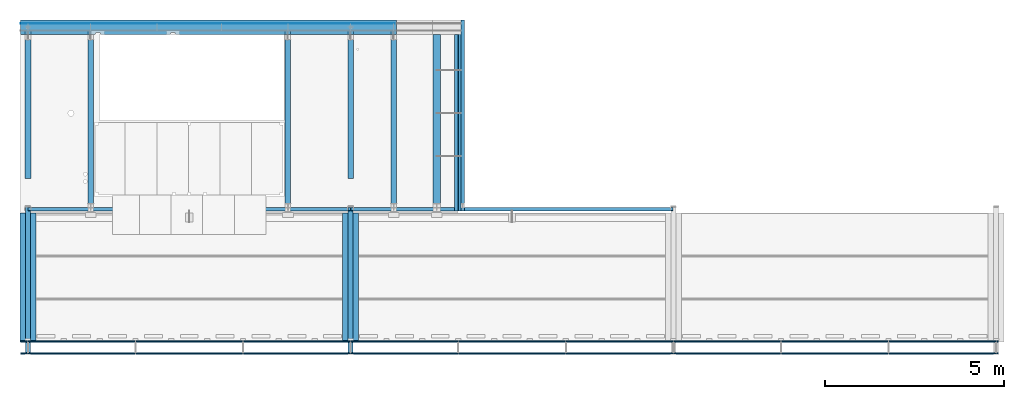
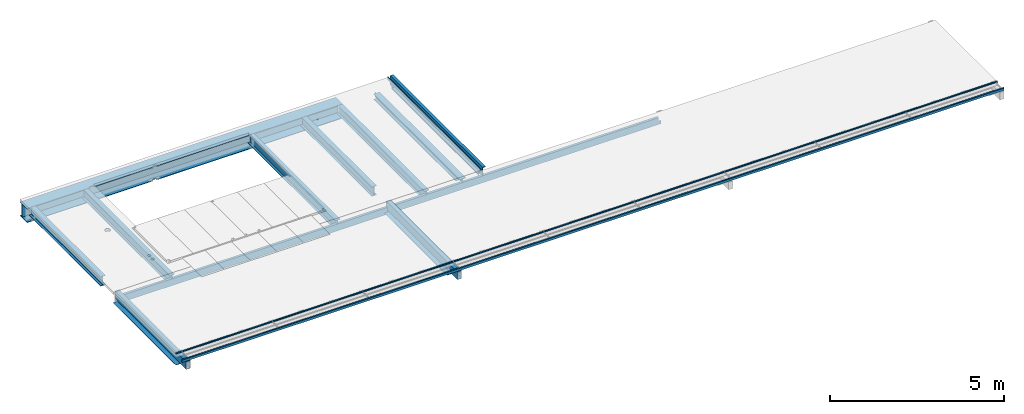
# One storey, part 1 of 13: 19 beams.
"""IFC2X3 building model written with IfcOpenShell, lengths in millimetres."""

from ifc_helpers import new_model, entity, si_unit, converted_unit, derived_unit, direction, frame, origin_with_axes, place, context, subcontext, project, spatial, faceted_brep, material, type_object, element, save


model = new_model("IFC2X3")

# Units and contexts
model_context = context("Model", 3, precision=0.01, world=frame((0.0, 4.29681676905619e-09, 0.0)), true_north=direction((4.01073788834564e-13, 1.0)))
plan_context = context("Plan", 3, precision=0.01, world=frame((0.0, 4.29681676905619e-09, 0.0)), true_north=direction((4.01073788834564e-13, 1.0)))
body_context = subcontext(model_context, "Body", "Model", "MODEL_VIEW")
ifc_project = project(units=[converted_unit("PLANEANGLEUNIT", "DEGREE", entity("IfcPositiveLengthMeasure", 0.0174532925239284), si_unit("PLANEANGLEUNIT", "RADIAN"), dimensions=[0, 0, 0, 0, 0, 0, 0]), si_unit("AREAUNIT", "SQUARE_METRE"), si_unit("LENGTHUNIT", "METRE", prefix="MILLI"), si_unit("MASSUNIT", "GRAM", prefix="KILO"), si_unit("POWERUNIT", "WATT"), si_unit("PRESSUREUNIT", "PASCAL", prefix="KILO"), si_unit("FORCEUNIT", "NEWTON", prefix="KILO"), si_unit("ELECTRICVOLTAGEUNIT", "VOLT"), si_unit("ELECTRICCURRENTUNIT", "AMPERE"), si_unit("THERMODYNAMICTEMPERATUREUNIT", "DEGREE_CELSIUS"), si_unit("TIMEUNIT", "SECOND"), si_unit("VOLUMEUNIT", "CUBIC_METRE"), derived_unit("LINEARVELOCITYUNIT", [(si_unit("LENGTHUNIT", "METRE"), 1), (si_unit("TIMEUNIT", "SECOND"), -1)]), derived_unit("VOLUMETRICFLOWRATEUNIT", [(si_unit("VOLUMEUNIT", "CUBIC_METRE"), 1), (si_unit("TIMEUNIT", "SECOND"), -1)]), derived_unit("THERMALTRANSMITTANCEUNIT", [(si_unit("POWERUNIT", "WATT"), 1), (si_unit("THERMODYNAMICTEMPERATUREUNIT", "KELVIN"), -1), (si_unit("AREAUNIT", "SQUARE_METRE"), -1)]), derived_unit("SOUNDPRESSUREUNIT", [(si_unit("PRESSUREUNIT", "PASCAL"), 1)])], contexts=[model_context, plan_context])

# Site, building, storey
site_placement = place(None, frame((0.0, -4.29681676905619e-09, 0.0), z_axis=(0.0, 0.0, 1.0), x_axis=(1.0, 0.0, 0.0)))
site = spatial("IfcSite", under=ifc_project, at=site_placement, Name="Gardermoen", CompositionType="ELEMENT")
building_placement = place(site_placement, frame((0.0, 4.29681676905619e-09, 0.0), z_axis=(0.0, 0.0, 1.0), x_axis=(1.0, 0.0, 0.0)))
building = spatial("IfcBuilding", under=site, at=building_placement, Name="TG", CompositionType="ELEMENT")
storey_placement = place(building_placement, origin_with_axes())
storey = spatial("IfcBuildingStorey", under=building, at=storey_placement, Name="G", CompositionType="ELEMENT", Elevation=0.0)

# Beams
ifc_material = material(Name="STEEL/S355")
beam_type_1 = type_object("IfcBeamType", Name="UNP240", PredefinedType="NOTDEFINED")
for number, where, z_axis, x_axis in (
    (1, (331010.0, 462222.495625, 213280.0), (0.0, 0.0, -1.0), (1.0, 0.0, 0.0)),
    (2, (322010.0, 462222.495625, 213280.0), (0.0, 0.0, -1.0), (1.0, 0.0, 0.0)),
):
    element("IfcBeam", number, at=place(storey_placement, frame(where, z_axis=z_axis, x_axis=x_axis)), inside=storey, type_object=beam_type_1, material=ifc_material, Name="STÅLBJELKE", ObjectType="UNP240", context=body_context, shape_type="Brep", body=[
        faceted_brep([(70.0, 33.0, -3.0), (70.0, 42.5, -3.0), (70.0, 42.5, -120.0), (70.0, -42.5, -120.0), (70.0, -42.5, -110.399999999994), (70.0, 33.0, -104.359999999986), (0.0, 33.0, -3.0), (0.0, 42.5, -3.0), (0.0, 42.5, 120.0), (0.0, -42.5, 120.0), (8980.0, -42.5, 120.0), (8980.0, 42.5, 120.0), (0.0, -42.5, 110.399999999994), (8980.0, -42.5, 110.399999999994), (0.0, 33.0, 104.359999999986), (8980.0, 33.0, 104.359999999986), (8980.0, 33.0, -3.0), (8980.0, 42.5, -3.0), (8910.0, 33.0, -3.0), (8910.0, 42.5, -3.0), (8910.0, 33.0, -104.359999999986), (8910.0, -42.5, -110.399999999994), (8910.0, -42.5, -120.0), (8910.0, 42.5, -120.0)], [[[0, 1, 2, 3, 4, 5]], [[6, 7, 1, 0]], [[8, 9, 10, 11]], [[9, 12, 13, 10]], [[12, 14, 15, 13]], [[11, 10, 13, 15, 16, 17]], [[16, 18, 19, 17]], [[20, 21, 22, 23, 19, 18]], [[21, 20, 5, 4]], [[22, 21, 4, 3]], [[23, 22, 3, 2]], [[8, 11, 17, 19, 23, 2, 1, 7]], [[14, 12, 9, 8, 7, 6]], [[20, 18, 16, 15, 14, 6, 0, 5]]]),
    ])
beam_type_2 = type_object("IfcBeamType", Name="L120*80*8", PredefinedType="NOTDEFINED")
beam_1_placement = place(storey_placement, frame((334034.999765, 462179.995625, 213640.0), z_axis=(0.0, 0.0, 1.0), x_axis=(0.0, 1.0, 0.0)))
element("IfcBeam", 3, at=beam_1_placement, inside=storey, type_object=beam_type_2, Name="STÅLBJELKE", ObjectType="L120*80*8", context=body_context, shape_type="Brep", body=[
    faceted_brep([(5320.00437499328, 40.0, -60.0), (5320.00437499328, 40.0, 60.0), (0.0, 40.0, 60.0), (0.0, 40.0, -60.0), (5320.00437499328, 32.0, 60.0), (0.0, 32.0, 60.0), (5320.00437499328, 32.0, -52.0), (0.0, 32.0, -52.0), (5320.00437499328, -40.0, -52.0), (0.0, -40.0, -52.0), (5320.00437499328, -40.0, -60.0), (0.0, -40.0, -60.0)], [[[0, 1, 2, 3]], [[1, 4, 5, 2]], [[4, 6, 7, 5]], [[6, 8, 9, 7]], [[8, 10, 11, 9]], [[10, 0, 3, 11]], [[3, 2, 5, 7, 9, 11]], [[10, 8, 6, 4, 1, 0]]], orient=[[False], [False], [False], [False], [False], [False], [False], [False]]),
])
beam_type_3 = type_object("IfcBeamType", Name="T100", PredefinedType="NOTDEFINED")
beam_2_placement = place(storey_placement, frame((333944.999765, 467195.004375, 213520.0), z_axis=(0.0, 0.0, 1.0), x_axis=(0.0, -1.0, 0.0)))
element("IfcBeam", 4, at=beam_2_placement, inside=storey, type_object=beam_type_3, material=ifc_material, Name="STÅLBJELKE", ObjectType="T100", context=body_context, shape_type="Brep", body=[
    faceted_brep([(95.0, -5.5, 30.0), (95.0, 5.5, 30.0), (0.0, 5.5, 30.0), (0.0, -5.5, 30.0), (95.0, -50.0, 50.0), (95.0, 50.0, 50.0), (95.0, 50.0, 39.0), (95.0, 5.5, 39.0), (95.0, -5.5, 39.0), (95.0, -50.0, 39.0), (0.0, -5.5, -50.0), (0.0, 5.5, -50.0), (5015.01753900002, 5.5, -50.0), (5015.01753900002, -5.5, -50.0), (5015.01753900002, 50.0, 39.0), (5015.01753900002, 50.0, 50.0), (5015.01753900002, -50.0, 50.0), (5015.01753900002, -50.0, 39.0), (5015.01753900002, -5.5, 39.0), (5015.01753900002, 5.5, 39.0)], [[[0, 1, 2, 3]], [[4, 5, 6, 7, 1, 0, 8, 9]], [[10, 11, 12, 13]], [[14, 15, 16, 17, 18, 13, 12, 19]], [[17, 16, 4, 9]], [[18, 17, 9, 8]], [[3, 10, 13, 18, 8, 0]], [[11, 10, 3, 2]], [[19, 12, 11, 2, 1, 7]], [[14, 19, 7, 6]], [[15, 14, 6, 5]], [[16, 15, 5, 4]]]),
])
beam_type_4 = type_object("IfcBeamType", Name="PL400*20", PredefinedType="NOTDEFINED")
beam_3_placement = place(storey_placement, frame((320720.000703, 467300.004375, 213080.0), z_axis=(0.0, -1.0, 0.0), x_axis=(1.0, 0.0, 0.0)))
element("IfcBeam", 5, at=beam_3_placement, inside=storey, type_object=beam_type_4, Name="STÅLBJELKE", ObjectType="PL400*20", context=body_context, shape_type="Brep", body=[
    faceted_brep([(5241.99906521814, -10.0, 199.999994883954), (5241.99906521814, 10.0, 200.0), (5266.76842347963, 10.0, 157.427661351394), (5266.76842347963, -10.0, 157.427661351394), (5269.27088199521, 10.0, 153.876997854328), (5269.27088199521, -10.0, 153.876997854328), (5272.35018144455, 10.0, 150.813107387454), (5272.35018144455, -10.0, 150.813107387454), (5275.91335403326, 10.0, 148.328492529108), (5275.91335403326, -10.0, 148.328492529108), (5279.85282324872, 10.0, 146.498166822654), (5279.85282324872, -10.0, 146.498166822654), (5284.04965172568, 10.0, 145.377390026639), (5284.04965172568, -10.0, 145.377390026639), (5288.37713210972, 10.0, 144.999999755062), (5288.37713210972, -10.0, 144.999999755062), (5359.62099536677, 10.0, 144.999998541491), (5359.62099536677, -10.0, 144.999998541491), (5363.94847546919, 10.0, 145.377388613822), (5363.94847546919, -10.0, 145.377388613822), (5368.14530371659, 10.0, 146.498165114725), (5368.14530371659, -10.0, 146.498165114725), (5372.08477277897, 10.0, 148.328490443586), (5372.08477277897, -10.0, 148.328490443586), (5375.64794531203, 10.0, 150.813104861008), (5375.64794531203, -10.0, 150.813104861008), (5378.72724481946, 10.0, 153.876994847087), (5378.72724481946, -10.0, 153.876994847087), (5381.22970351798, 10.0, 157.427657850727), (5381.22970351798, -10.0, 157.427657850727), (5405.99906559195, 10.0, 200.0), (5405.99906559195, -10.0, 199.999993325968), (3293.22970351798, -10.0, 157.427657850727), (3293.22970351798, 10.0, 157.427657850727), (3317.99906559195, 10.0, 200.0), (3317.99906559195, -10.0, 199.999993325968), (3290.72724481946, -10.0, 153.876994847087), (3290.72724481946, 10.0, 153.876994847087), (3287.64794531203, -10.0, 150.813104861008), (3287.64794531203, 10.0, 150.813104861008), (3284.08477277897, -10.0, 148.328490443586), (3284.08477277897, 10.0, 148.328490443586), (3280.14530371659, -10.0, 146.498165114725), (3280.14530371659, 10.0, 146.498165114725), (3275.94847546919, -10.0, 145.377388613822), (3275.94847546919, 10.0, 145.377388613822), (3271.62099536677, -10.0, 144.999998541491), (3271.62099536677, 10.0, 144.999998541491), (3200.37713210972, -10.0, 144.999999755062), (3200.37713210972, 10.0, 144.999999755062), (3196.04965172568, -10.0, 145.377390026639), (3196.04965172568, 10.0, 145.377390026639), (3191.85282324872, -10.0, 146.498166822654), (3191.85282324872, 10.0, 146.498166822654), (3187.91335403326, -10.0, 148.328492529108), (3187.91335403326, 10.0, 148.328492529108), (3184.35018144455, -10.0, 150.813107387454), (3184.35018144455, 10.0, 150.813107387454), (3181.27088199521, -10.0, 153.876997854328), (3181.27088199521, 10.0, 153.876997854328), (3178.76842347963, -10.0, 157.427661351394), (3178.76842347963, 10.0, 157.427661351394), (3153.99906521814, -10.0, 200.0), (3153.99906521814, 10.0, 200.0), (1074.74929700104, -10.0, 200.0), (1074.74929700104, 10.0, 200.0), (1074.74929700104, 10.0, -200.0), (1074.74929700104, -10.0, -200.0), (11559.9990620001, -10.0, -200.0), (11559.9990620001, 10.0, -200.0), (11559.9990620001, 10.0, 200.0), (11559.9990620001, -10.0, 200.0)], [[[0, 1, 2, 3]], [[3, 2, 4, 5]], [[5, 4, 6, 7]], [[7, 6, 8, 9]], [[9, 8, 10, 11]], [[11, 10, 12, 13]], [[13, 12, 14, 15]], [[15, 14, 16, 17]], [[17, 16, 18, 19]], [[19, 18, 20, 21]], [[21, 20, 22, 23]], [[23, 22, 24, 25]], [[25, 24, 26, 27]], [[27, 26, 28, 29]], [[29, 28, 30, 31]], [[32, 33, 34, 35]], [[36, 37, 33, 32]], [[38, 39, 37, 36]], [[40, 41, 39, 38]], [[42, 43, 41, 40]], [[44, 45, 43, 42]], [[46, 47, 45, 44]], [[48, 49, 47, 46]], [[50, 51, 49, 48]], [[52, 53, 51, 50]], [[54, 55, 53, 52]], [[56, 57, 55, 54]], [[58, 59, 57, 56]], [[60, 61, 59, 58]], [[62, 63, 61, 60]], [[64, 65, 63, 62]], [[66, 67, 68, 69]], [[70, 69, 68, 71]], [[67, 64, 62, 60, 58, 56, 54, 52, 50, 48, 46, 44, 42, 40, 38, 36, 32, 35, 0, 3, 5, 7, 9, 11, 13, 15, 17, 19, 21, 23, 25, 27, 29, 31, 71, 68]], [[1, 0, 35, 34]], [[65, 66, 69, 70, 30, 28, 26, 24, 22, 20, 18, 16, 14, 12, 10, 8, 6, 4, 2, 1, 34, 33, 37, 39, 41, 43, 45, 47, 49, 51, 53, 55, 57, 59, 61, 63]], [[31, 30, 70, 71]], [[67, 66, 65, 64]]], orient=[[False], [False], [False], [False], [False], [False], [False], [False], [False], [False], [False], [False], [False], [False], [False], [False], [False], [False], [False], [False], [False], [False], [False], [False], [False], [False], [False], [False], [False], [False], [False], [False], [False], [False], [False], [False], [False], [False]]),
])
beam_4_placement = place(storey_placement, frame((320720.000703, 467300.004375, 213560.0), z_axis=(0.0, -1.0, 0.0), x_axis=(1.0, 0.0, 0.0)))
element("IfcBeam", 6, at=beam_4_placement, inside=storey, type_object=beam_type_4, Name="STÅLBJELKE", ObjectType="PL400*20", context=body_context, shape_type="Brep", body=[
    faceted_brep([(5241.99906521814, -10.0, 199.999994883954), (5241.99906521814, 10.0, 200.0), (5266.76842347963, 10.0, 157.427661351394), (5266.76842347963, -10.0, 157.427661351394), (5269.27088199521, 10.0, 153.876997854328), (5269.27088199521, -10.0, 153.876997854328), (5272.35018144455, 10.0, 150.813107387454), (5272.35018144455, -10.0, 150.813107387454), (5275.91335403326, 10.0, 148.328492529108), (5275.91335403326, -10.0, 148.328492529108), (5279.85282324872, 10.0, 146.498166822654), (5279.85282324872, -10.0, 146.498166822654), (5284.04965172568, 10.0, 145.377390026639), (5284.04965172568, -10.0, 145.377390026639), (5288.37713210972, 10.0, 144.999999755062), (5288.37713210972, -10.0, 144.999999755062), (5359.62099536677, 10.0, 144.999998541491), (5359.62099536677, -10.0, 144.999998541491), (5363.94847546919, 10.0, 145.377388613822), (5363.94847546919, -10.0, 145.377388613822), (5368.14530371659, 10.0, 146.498165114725), (5368.14530371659, -10.0, 146.498165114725), (5372.08477277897, 10.0, 148.328490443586), (5372.08477277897, -10.0, 148.328490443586), (5375.64794531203, 10.0, 150.813104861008), (5375.64794531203, -10.0, 150.813104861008), (5378.72724481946, 10.0, 153.876994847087), (5378.72724481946, -10.0, 153.876994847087), (5381.22970351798, 10.0, 157.427657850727), (5381.22970351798, -10.0, 157.427657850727), (5405.99906559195, 10.0, 200.0), (5405.99906559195, -10.0, 199.999993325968), (3293.22970351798, -10.0, 157.427657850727), (3293.22970351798, 10.0, 157.427657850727), (3317.99906559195, 10.0, 200.0), (3317.99906559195, -10.0, 199.999993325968), (3290.72724481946, -10.0, 153.876994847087), (3290.72724481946, 10.0, 153.876994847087), (3287.64794531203, -10.0, 150.813104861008), (3287.64794531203, 10.0, 150.813104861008), (3284.08477277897, -10.0, 148.328490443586), (3284.08477277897, 10.0, 148.328490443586), (3280.14530371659, -10.0, 146.498165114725), (3280.14530371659, 10.0, 146.498165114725), (3275.94847546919, -10.0, 145.377388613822), (3275.94847546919, 10.0, 145.377388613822), (3271.62099536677, -10.0, 144.999998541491), (3271.62099536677, 10.0, 144.999998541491), (3200.37713210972, -10.0, 144.999999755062), (3200.37713210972, 10.0, 144.999999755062), (3196.04965172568, -10.0, 145.377390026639), (3196.04965172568, 10.0, 145.377390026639), (3191.85282324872, -10.0, 146.498166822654), (3191.85282324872, 10.0, 146.498166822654), (3187.91335403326, -10.0, 148.328492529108), (3187.91335403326, 10.0, 148.328492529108), (3184.35018144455, -10.0, 150.813107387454), (3184.35018144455, 10.0, 150.813107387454), (3181.27088199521, -10.0, 153.876997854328), (3181.27088199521, 10.0, 153.876997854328), (3178.76842347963, -10.0, 157.427661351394), (3178.76842347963, 10.0, 157.427661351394), (3153.99906521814, -10.0, 200.0), (3153.99906521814, 10.0, 200.0), (1074.74929700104, -10.0, 200.0), (1074.74929700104, 10.0, 200.0), (1074.74929700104, 10.0, -200.0), (1074.74929700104, -10.0, -200.0), (11559.9990620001, -10.0, -200.0), (11559.9990620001, 10.0, -200.0), (11559.9990620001, 10.0, 200.0), (11559.9990620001, -10.0, 200.0)], [[[0, 1, 2, 3]], [[3, 2, 4, 5]], [[5, 4, 6, 7]], [[7, 6, 8, 9]], [[9, 8, 10, 11]], [[11, 10, 12, 13]], [[13, 12, 14, 15]], [[15, 14, 16, 17]], [[17, 16, 18, 19]], [[19, 18, 20, 21]], [[21, 20, 22, 23]], [[23, 22, 24, 25]], [[25, 24, 26, 27]], [[27, 26, 28, 29]], [[29, 28, 30, 31]], [[32, 33, 34, 35]], [[36, 37, 33, 32]], [[38, 39, 37, 36]], [[40, 41, 39, 38]], [[42, 43, 41, 40]], [[44, 45, 43, 42]], [[46, 47, 45, 44]], [[48, 49, 47, 46]], [[50, 51, 49, 48]], [[52, 53, 51, 50]], [[54, 55, 53, 52]], [[56, 57, 55, 54]], [[58, 59, 57, 56]], [[60, 61, 59, 58]], [[62, 63, 61, 60]], [[64, 65, 63, 62]], [[66, 67, 68, 69]], [[70, 69, 68, 71]], [[67, 64, 62, 60, 58, 56, 54, 52, 50, 48, 46, 44, 42, 40, 38, 36, 32, 35, 0, 3, 5, 7, 9, 11, 13, 15, 17, 19, 21, 23, 25, 27, 29, 31, 71, 68]], [[1, 0, 35, 34]], [[65, 66, 69, 70, 30, 28, 26, 24, 22, 20, 18, 16, 14, 12, 10, 8, 6, 4, 2, 1, 34, 33, 37, 39, 41, 43, 45, 47, 49, 51, 53, 55, 57, 59, 61, 63]], [[31, 30, 70, 71]], [[67, 66, 65, 64]]], orient=[[False], [False], [False], [False], [False], [False], [False], [False], [False], [False], [False], [False], [False], [False], [False], [False], [False], [False], [False], [False], [False], [False], [False], [False], [False], [False], [False], [False], [False], [False], [False], [False], [False], [False], [False], [False], [False], [False]]),
])
beam_type_5 = type_object("IfcBeamType", Name="PL460*10", PredefinedType="NOTDEFINED")
beam_5_placement = place(storey_placement, frame((320720.000703, 467400.004375, 213320.0), z_axis=(0.0, 0.0, 1.0), x_axis=(1.0, 0.0, 0.0)))
element("IfcBeam", 7, at=beam_5_placement, inside=storey, type_object=beam_type_5, Name="STÅLBJELKE", ObjectType="PL460*10", context=body_context, shape_type="Brep", body=[
    faceted_brep([(1074.74929700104, 5.0, 230.0), (1074.74929700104, 5.0, -230.0), (11559.9990620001, 5.0, -230.0), (11559.9990620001, 5.0, 230.0), (1074.74929700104, -5.0, 230.0), (11559.9990620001, -5.0, 230.0), (1074.74929700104, -5.0, -230.0), (11559.9990620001, -5.0, -230.0)], [[[0, 1, 2, 3]], [[4, 0, 3, 5]], [[6, 4, 5, 7]], [[1, 6, 7, 2]], [[3, 2, 7, 5]], [[4, 6, 1, 0]]], orient=[[False], [False], [False], [False], [False], [False]]),
])
beam_type_6 = type_object("IfcBeamType", Name="IPE330", PredefinedType="NOTDEFINED")
for number, where, z_axis, x_axis in (
    (8, (322000.000703, 463078.995625, 213405.0), (0.0, 0.0, 1.0), (0.0, 1.0, 0.0)),
    (9, (330999.999765, 463078.995625, 213405.0), (0.0, 0.0, 1.0), (0.0, 1.0, 0.0)),
):
    element("IfcBeam", number, at=place(storey_placement, frame(where, z_axis=z_axis, x_axis=x_axis)), inside=storey, type_object=beam_type_6, material=ifc_material, Name="STÅLBJELKE", ObjectType="IPE330", context=body_context, shape_type="Brep", body=[
        faceted_brep([(4021.00875000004, -80.0, 165.0), (4021.00875000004, -80.0, 153.5), (4021.00875000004, -3.75, 153.5), (4021.00875000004, -3.75, 145.0), (4021.00875000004, 3.75, 145.0), (4021.00875000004, 3.75, 153.5), (4021.00875000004, 80.0, 153.5), (4021.00875000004, 80.0, 165.0), (4116.00875000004, -3.75, 145.0), (4116.00875000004, 3.75, 145.0), (0.0, -80.0, -165.0), (0.0, -80.0, -153.5), (0.0, -3.75, -153.5), (0.0, -3.75, 153.5), (0.0, -80.0, 153.5), (0.0, -80.0, 165.0), (0.0, 80.0, 165.0), (0.0, 80.0, 153.5), (0.0, 3.75, 153.5), (0.0, 3.75, -153.5), (0.0, 80.0, -153.5), (0.0, 80.0, -165.0), (4116.00875000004, 3.75, -153.5), (4116.00875000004, 80.0, -153.5), (4116.00875000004, 80.0, -165.0), (4116.00875000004, -80.0, -165.0), (4116.00875000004, -80.0, -153.5), (4116.00875000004, -3.75, -153.5)], [[[0, 1, 2, 3, 4, 5, 6, 7]], [[8, 9, 4, 3]], [[10, 11, 12, 13, 14, 15, 16, 17, 18, 19, 20, 21]], [[20, 19, 22, 23]], [[21, 20, 23, 24]], [[10, 21, 24, 25]], [[11, 10, 25, 26]], [[12, 11, 26, 27]], [[2, 13, 12, 27, 8, 3]], [[14, 13, 2, 1]], [[15, 14, 1, 0]], [[16, 15, 0, 7]], [[17, 16, 7, 6]], [[18, 17, 6, 5]], [[22, 19, 18, 5, 4, 9]], [[27, 26, 25, 24, 23, 22, 9, 8]]]),
    ])
for number, where, z_axis, x_axis in (
    (10, (332199.999765, 462137.995625, 213405.0), (0.0, 0.0, 1.0), (0.0, 1.0, 0.0)),
    (11, (329249.999765, 462137.995625, 213405.0), (0.0, 0.0, 1.0), (0.0, 1.0, 0.0)),
    (12, (323749.999765, 462137.995625, 213405.0), (0.0, 0.0, 1.0), (0.0, 1.0, 0.0)),
):
    element("IfcBeam", number, at=place(storey_placement, frame(where, z_axis=z_axis, x_axis=x_axis)), inside=storey, type_object=beam_type_6, material=ifc_material, Name="STÅLBJELKE", ObjectType="IPE330", context=body_context, shape_type="Brep", body=[
        faceted_brep([(0.0, -3.75, 5.0), (0.0, 3.75, 5.0), (131.903861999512, 3.75, 5.0), (131.903861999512, -3.75, 5.0), (242.0, -3.75, -137.167623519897), (242.0, 3.75, -137.167623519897), (242.0, 3.75, -153.5), (242.0, 80.0, -153.5), (242.0, 80.0, -165.0), (242.0, -80.0, -165.0), (242.0, -80.0, -153.5), (242.0, -3.75, -153.5), (0.0, 3.75, 153.5), (0.0, 80.0, 153.5), (4962.00875000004, 80.0, 153.5), (4962.00875000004, 3.75, 153.5), (0.0, -80.0, 153.5), (0.0, -3.75, 153.5), (4962.00875000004, -3.75, 153.5), (4962.00875000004, -80.0, 153.5), (0.0, -80.0, 165.0), (4962.00875000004, -80.0, 165.0), (0.0, 80.0, 165.0), (4962.00875000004, 80.0, 165.0), (4962.00875000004, -3.75, 145.0), (4962.00875000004, 3.75, 145.0), (5057.00875000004, -3.75, 145.0), (5057.00875000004, 3.75, 145.0), (5057.00875000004, -3.75, -153.5), (5057.00875000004, -80.0, -153.5), (5057.00875000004, -80.0, -165.0), (5057.00875000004, 80.0, -165.0), (5057.00875000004, 80.0, -153.5), (5057.00875000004, 3.75, -153.5)], [[[0, 1, 2, 3]], [[4, 5, 6, 7, 8, 9, 10, 11]], [[3, 2, 5, 4]], [[12, 13, 14, 15]], [[16, 17, 18, 19]], [[20, 16, 19, 21]], [[22, 20, 21, 23]], [[13, 22, 23, 14]], [[21, 19, 18, 24, 25, 15, 14, 23]], [[26, 27, 25, 24]], [[28, 29, 30, 31, 32, 33, 27, 26]], [[29, 28, 11, 10]], [[30, 29, 10, 9]], [[31, 30, 9, 8]], [[32, 31, 8, 7]], [[33, 32, 7, 6]], [[1, 12, 15, 25, 27, 33, 6, 5, 2]], [[17, 16, 20, 22, 13, 12, 1, 0]], [[28, 26, 24, 18, 17, 0, 3, 4, 11]]]),
    ])
beam_type_7 = type_object("IfcBeamType", Name="UNP320", PredefinedType="NOTDEFINED")
beam_6_placement = place(storey_placement, frame((334124.999765, 462179.995625, 213540.0), z_axis=(0.0, 0.0, 1.0), x_axis=(0.0, 1.0, 0.0)))
element("IfcBeam", 13, at=beam_6_placement, inside=storey, type_object=beam_type_7, Name="STÅLBJELKE", ObjectType="UNP320", context=body_context, shape_type="Brep", body=[
    faceted_brep([(5320.00437499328, -50.0, 160.0), (5320.00437499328, -50.0, 145.0), (0.0, -50.0, 145.0), (0.0, -50.0, 160.0), (5320.00437499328, 50.0, 160.0), (0.0, 50.0, 160.0), (87.0, 36.0, -140.700000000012), (87.0, -50.0, -145.0), (87.0, -50.0, -160.0), (87.0, 50.0, -160.0), (87.0, 50.0, -140.0), (87.0, 36.0, -140.0), (0.0, 50.0, -140.0), (0.0, 36.0, -140.0), (0.0, 36.0, 140.700000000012), (5320.00437499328, 36.0, 140.700000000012), (5320.00437499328, 50.0, -160.0), (5320.00437499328, -50.0, -160.0), (5320.00437499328, -50.0, -145.0), (5320.00437499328, 36.0, -140.700000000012)], [[[0, 1, 2, 3]], [[4, 0, 3, 5]], [[6, 7, 8, 9, 10, 11]], [[11, 10, 12, 13]], [[13, 12, 5, 3, 2, 14]], [[1, 15, 14, 2]], [[16, 4, 5, 12, 10, 9]], [[17, 16, 9, 8]], [[18, 17, 8, 7]], [[19, 18, 7, 6]], [[15, 19, 6, 11, 13, 14]], [[4, 16, 17, 18, 19, 15, 1, 0]]], orient=[[False], [False], [False], [False], [False], [False], [False], [False], [False], [False], [False], [False]]),
])
beam_type_8 = type_object("IfcBeamType", Name="HEB200", PredefinedType="NOTDEFINED")
beam_7_placement = place(storey_placement, frame((333399.999765, 462137.994375, 213470.0), z_axis=(0.0, 0.0, 1.0), x_axis=(0.0, 1.0, 0.0)))
element("IfcBeam", 14, at=beam_7_placement, inside=storey, type_object=beam_type_8, material=ifc_material, Name="STÅLBJELKE", ObjectType="HEB200", context=body_context, shape_type="Brep", body=[
    faceted_brep([(0.0, -4.5, -59.9999999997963), (0.0, 4.5, -59.9999999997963), (127.650672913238, 4.5, -59.9999999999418), (127.650672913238, -4.5, -59.9999999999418), (242.001251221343, -100.0, -89.6652832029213), (242.001251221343, 100.0, -89.6652832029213), (242.001251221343, 100.0, -100.0), (242.001251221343, -100.0, -100.0), (224.018013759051, -100.0, -85.0), (224.018013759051, -4.5, -85.0), (224.018013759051, 4.5, -85.0), (224.018013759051, 100.0, -85.0), (0.0, 4.5, 85.0), (0.0, 100.0, 85.0), (4962.01000000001, 100.0, 85.0), (4962.01000000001, 4.5, 85.0), (0.0, -100.0, 85.0), (0.0, -4.5, 85.0), (4962.01000000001, -4.5, 85.0), (4962.01000000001, -100.0, 85.0), (0.0, -100.0, 100.0), (4962.01000000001, -100.0, 100.0), (0.0, 100.0, 100.0), (4962.01000000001, 100.0, 100.0), (4962.01000000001, -4.5, 80.0), (4962.01000000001, 4.5, 80.0), (5057.01000000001, -4.5, 80.0), (5057.01000000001, 4.5, 80.0), (5057.01000000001, -4.5, -80.0), (5057.01000000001, 4.5, -80.0), (4962.01000000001, -4.5, -80.0), (4962.01000000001, 4.5, -80.0), (4962.01000000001, -4.5, -85.0), (4962.01000000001, -100.0, -85.0), (4962.01000000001, -100.0, -100.0), (4962.01000000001, 100.0, -100.0), (4962.01000000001, 100.0, -85.0), (4962.01000000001, 4.5, -85.0)], [[[0, 1, 2, 3]], [[4, 5, 6, 7]], [[8, 9, 3, 2, 10, 11, 5, 4]], [[12, 13, 14, 15]], [[16, 17, 18, 19]], [[20, 16, 19, 21]], [[22, 20, 21, 23]], [[13, 22, 23, 14]], [[21, 19, 18, 24, 25, 15, 14, 23]], [[26, 27, 25, 24]], [[27, 26, 28, 29]], [[28, 30, 31, 29]], [[32, 33, 34, 35, 36, 37, 31, 30]], [[35, 34, 7, 6]], [[36, 35, 6, 5, 11]], [[37, 36, 11, 10]], [[1, 12, 15, 25, 27, 29, 31, 37, 10, 2]], [[17, 16, 20, 22, 13, 12, 1, 0]], [[32, 30, 28, 26, 24, 18, 17, 0, 3, 9]], [[33, 32, 9, 8]], [[34, 33, 8, 4, 7]]]),
])
beam_type_9 = type_object("IfcBeamType", Name="HQ265*5-40*130-12*440", PredefinedType="NOTDEFINED")
beam_8_placement = place(storey_placement, frame((331000.0, 462290.999973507, 213421.5), z_axis=(0.0, 0.0, 1.0), x_axis=(0.0, -1.0, 0.0)))
element("IfcBeam", 15, at=beam_8_placement, inside=storey, type_object=beam_type_9, material=ifc_material, Name="STÅLBJELKE", ObjectType="HQ265*5-40*130-12*440", context=body_context, shape_type="Brep", body=[
    faceted_brep([(3771.00006722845, 69.9999945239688, -126.5), (3771.00006722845, 69.9991684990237, -138.5), (3771.00006723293, 220.00000004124, -138.5), (3771.00006723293, 220.00000004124, -126.5), (4106.00003671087, 69.9990971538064, -126.5), (4105.9999735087, 69.9990971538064, -138.5), (171.000093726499, 220.000000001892, -126.5), (171.000093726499, 220.000000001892, -138.5), (171.000061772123, 69.9999351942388, -138.5), (171.000061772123, 69.9999351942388, -126.5), (171.000031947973, -69.9999999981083, -126.5), (171.0, -220.000034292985, -126.5), (3771.00000545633, -220.000002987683, -126.5), (3771.00000545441, -69.9999999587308, -126.5), (9.99999999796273, -69.9999999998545, -126.5), (9.99999999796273, -69.9999695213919, -138.5), (171.000031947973, -70.0000038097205, -138.5), (171.0, -220.000000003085, -138.5), (3771.00000545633, -220.000000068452, -138.5), (3771.00000545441, -70.0007705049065, -138.5), (4106.00000688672, -70.0008418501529, -126.5), (4105.99997350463, -70.0008418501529, -138.5), (4105.99997350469, -69.9999999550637, 138.5), (9.99999999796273, -69.9999999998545, 138.5), (10.0000000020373, 70.0000000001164, 138.5), (4105.9999735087, 70.0000000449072, 138.5), (10.0000000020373, 70.0000000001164, -126.5), (10.0000000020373, 69.9999694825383, -138.5), (10.0000000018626, 65.0000000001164, 98.5), (9.99999999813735, -64.9999999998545, 98.5), (9.99999999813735, -64.9999999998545, -126.5), (10.0000000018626, 65.0000000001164, -126.5), (4105.99997350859, 65.0000000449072, -126.5), (4105.99997350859, 65.0000000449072, 98.5), (4105.9999735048, -64.9999999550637, 98.5), (4105.9999735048, -64.9999999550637, -126.5)], [[[0, 1, 2, 3]], [[4, 5, 1, 0]], [[6, 7, 8, 9]], [[10, 11, 12, 13]], [[14, 15, 16, 10]], [[11, 10, 16, 17]], [[11, 17, 18, 12]], [[12, 18, 19, 13]], [[20, 13, 19, 21]], [[22, 23, 14, 10, 13, 20]], [[24, 23, 22, 25]], [[9, 26, 24, 25, 4, 0]], [[6, 9, 0, 3]], [[7, 6, 3, 2]], [[21, 19, 18, 17, 16, 15, 27, 8, 7, 2, 1, 5]], [[9, 8, 27, 26]], [[15, 14, 23, 24, 26, 27], [28, 29, 30, 31]], [[28, 31, 32, 33]], [[29, 28, 33, 34]], [[30, 29, 34, 35]], [[31, 30, 35, 32]], [[25, 22, 20, 21, 5, 4], [34, 33, 32, 35]]]),
])
beam_9_placement = place(storey_placement, frame((322000.0, 462290.999973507, 213421.5), z_axis=(0.0, 0.0, 1.0), x_axis=(0.0, -1.0, 0.0)))
element("IfcBeam", 16, at=beam_9_placement, inside=storey, type_object=beam_type_9, material=ifc_material, Name="STÅLBJELKE", ObjectType="HQ265*5-40*130-12*440", context=body_context, shape_type="Brep", body=[
    faceted_brep([(3771.00006722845, 69.9999945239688, -126.5), (3771.00006722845, 69.9991684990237, -138.5), (3771.00006723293, 220.00000004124, -138.5), (3771.00006723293, 220.00000004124, -126.5), (4106.00003671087, 69.9990971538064, -126.5), (4105.9999735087, 69.9990971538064, -138.5), (171.000093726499, 220.000000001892, -126.5), (171.000093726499, 220.000000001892, -138.5), (171.000061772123, 69.9999351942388, -138.5), (171.000061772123, 69.9999351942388, -126.5), (171.000031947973, -69.9999999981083, -126.5), (171.0, -220.000034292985, -126.5), (3771.00000545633, -220.000002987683, -126.5), (3771.00000545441, -69.9999999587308, -126.5), (9.99999999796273, -69.9999999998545, -126.5), (9.99999999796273, -69.9999695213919, -138.5), (171.000031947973, -70.0000038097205, -138.5), (171.0, -220.000000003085, -138.5), (3771.00000545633, -220.000000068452, -138.5), (3771.00000545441, -70.0007705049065, -138.5), (4106.00000688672, -70.0008418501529, -126.5), (4105.99997350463, -70.0008418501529, -138.5), (4105.99997350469, -69.9999999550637, 138.5), (9.99999999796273, -69.9999999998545, 138.5), (10.0000000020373, 70.0000000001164, 138.5), (4105.9999735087, 70.0000000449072, 138.5), (10.0000000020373, 70.0000000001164, -126.5), (10.0000000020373, 69.9999694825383, -138.5), (10.0000000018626, 65.0000000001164, 98.5), (9.99999999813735, -64.9999999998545, 98.5), (9.99999999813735, -64.9999999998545, -126.5), (10.0000000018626, 65.0000000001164, -126.5), (4105.99997350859, 65.0000000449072, -126.5), (4105.99997350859, 65.0000000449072, 98.5), (4105.9999735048, -64.9999999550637, 98.5), (4105.9999735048, -64.9999999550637, -126.5)], [[[0, 1, 2, 3]], [[4, 5, 1, 0]], [[6, 7, 8, 9]], [[10, 11, 12, 13]], [[14, 15, 16, 10]], [[11, 10, 16, 17]], [[11, 17, 18, 12]], [[12, 18, 19, 13]], [[20, 13, 19, 21]], [[22, 23, 14, 10, 13, 20]], [[24, 23, 22, 25]], [[9, 26, 24, 25, 4, 0]], [[6, 9, 0, 3]], [[7, 6, 3, 2]], [[21, 19, 18, 17, 16, 15, 27, 8, 7, 2, 1, 5]], [[9, 8, 27, 26]], [[15, 14, 23, 24, 26, 27], [28, 29, 30, 31]], [[28, 31, 32, 33]], [[29, 28, 33, 34]], [[30, 29, 34, 35]], [[31, 30, 35, 32]], [[25, 22, 20, 21, 5, 4], [34, 33, 32, 35]]]),
])
beam_type_10 = type_object("IfcBeamType", Name="L40*4", PredefinedType="NOTDEFINED")
beam_10_placement = place(storey_placement, frame((295095.000817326, 458539.99999315, 213680.13164462), z_axis=(0.0, 0.0, 1.0), x_axis=(1.0, 0.0, 0.0)))
element("IfcBeam", 17, at=beam_10_placement, inside=storey, type_object=beam_type_10, Name="STÅLBJELKE", ObjectType="L40*4", context=body_context, shape_type="Brep", body=[
    faceted_brep([(53969.4991826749, 19.9999990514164, -20.0000004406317), (53969.4991826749, 19.9999990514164, 19.9999995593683), (26699.749182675, 19.9999995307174, 19.999999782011), (26699.749182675, 19.9999995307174, -20.000000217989), (53969.4991826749, 15.9999990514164, 19.9999995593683), (26699.749182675, 15.9999995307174, 19.999999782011), (53969.4991826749, 15.9999990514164, -16.0000004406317), (26699.749182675, 15.9999995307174, -16.000000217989), (53969.4991826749, -20.0000009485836, -16.0000004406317), (26699.749182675, -20.0000004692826, -16.000000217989), (53969.4991826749, -20.0000009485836, -20.0000004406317), (26699.749182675, -20.0000004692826, -20.000000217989)], [[[0, 1, 2, 3]], [[1, 4, 5, 2]], [[4, 6, 7, 5]], [[6, 8, 9, 7]], [[8, 10, 11, 9]], [[10, 0, 3, 11]], [[10, 8, 6, 4, 1, 0]], [[5, 7, 9, 11, 3, 2]]], orient=[[False], [False], [False], [False], [False], [False], [False], [False]]),
])
beam_11_placement = place(storey_placement, frame((357904.98299509, 458199.998827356, 213680.131581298), z_axis=(0.0, 0.0, 1.0), x_axis=(-1.0, 0.0, 0.0)))
element("IfcBeam", 18, at=beam_11_placement, inside=storey, type_object=beam_type_10, Name="STÅLBJELKE", ObjectType="L40*4", context=body_context, shape_type="Brep", body=[
    faceted_brep([(36110.232995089, 19.999999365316, -20.0000002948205), (36110.232995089, 19.999999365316, 19.9999997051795), (8840.48299508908, 19.9999998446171, 19.9999999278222), (8840.48299508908, 19.9999998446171, -20.0000000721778), (36110.232995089, 15.999999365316, 19.9999997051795), (8840.48299508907, 15.9999998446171, 19.9999999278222), (36110.232995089, 15.999999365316, -16.0000002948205), (8840.48299508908, 15.9999998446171, -16.0000000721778), (36110.232995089, -20.000000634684, -16.0000002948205), (8840.48299508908, -20.0000001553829, -16.0000000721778), (36110.232995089, -20.000000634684, -20.0000002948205), (8840.48299508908, -20.0000001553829, -20.0000000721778)], [[[0, 1, 2, 3]], [[1, 4, 5, 2]], [[4, 6, 7, 5]], [[6, 8, 9, 7]], [[8, 10, 11, 9]], [[10, 0, 3, 11]], [[5, 7, 9, 11, 3, 2]], [[10, 8, 6, 4, 1, 0]]], orient=[[False], [False], [False], [False], [False], [False], [False], [False]]),
])
beam_type_11 = type_object("IfcBeamType", Name="RHS80*40*5", PredefinedType="NOTDEFINED")
beam_12_placement = place(storey_placement, frame((357904.982379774, 458199.998833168, 213620.131614), z_axis=(0.0, 0.0, 1.0), x_axis=(-1.0, 0.0, 0.0)))
element("IfcBeam", 19, at=beam_12_placement, inside=storey, type_object=beam_type_11, Name="STÅLBJELKE", ObjectType="RHS80*40*5", context=body_context, shape_type="Brep", body=[
    faceted_brep([(36110.2323797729, 14.9999999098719, -34.9999997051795), (36110.2323797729, -15.0000000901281, -34.9999997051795), (8840.48237977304, -15.0000000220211, -34.9999999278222), (8840.48237977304, 14.9999999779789, -34.9999999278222), (36110.2323797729, -15.0000000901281, 35.0000002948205), (8840.48237977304, -15.0000000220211, 35.0000000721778), (36110.2323797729, 14.9999999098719, 35.0000002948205), (8840.48237977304, 14.9999999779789, 35.0000000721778), (36110.2323797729, 19.9999999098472, -39.9999997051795), (36110.2323797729, 19.9999999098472, 40.0000002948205), (8840.48237977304, 19.9999999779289, 40.0000000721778), (8840.48237977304, 19.9999999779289, -39.9999999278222), (36110.2323797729, -20.0000000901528, 40.0000002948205), (8840.48237977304, -20.0000000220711, 40.0000000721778), (36110.2323797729, -20.0000000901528, -39.9999997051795), (8840.48237977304, -20.0000000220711, -39.9999999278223)], [[[0, 1, 2, 3]], [[1, 4, 5, 2]], [[4, 6, 7, 5]], [[6, 0, 3, 7]], [[8, 9, 10, 11]], [[9, 12, 13, 10]], [[12, 14, 15, 13]], [[14, 8, 11, 15]], [[13, 15, 11, 10], [5, 7, 3, 2]], [[14, 12, 9, 8], [6, 4, 1, 0]]], orient=[[False], [False], [False], [False], [False], [False], [False], [False], [False, False], [False, False]]),
])

save(model, "model.ifc")
